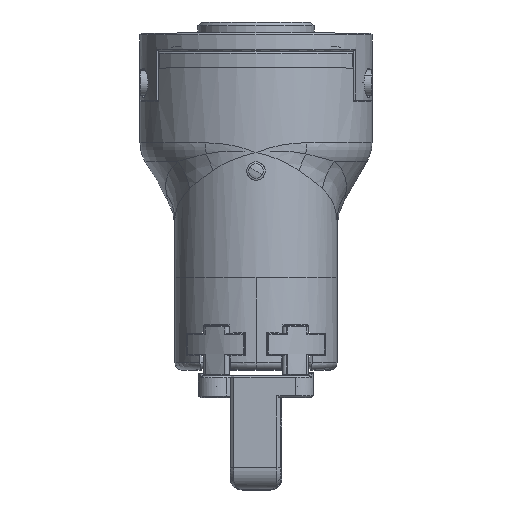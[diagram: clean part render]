
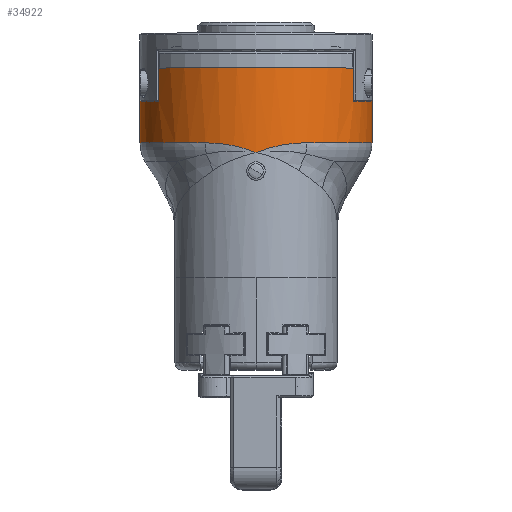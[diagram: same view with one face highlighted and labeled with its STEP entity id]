
A CAD part, top view. The second image highlights one B-rep face of the part: STEP entity #34922.
In plain terms, the highlighted cylindrical face has radius 31.5 mm (diameter 63 mm), a partial arc.
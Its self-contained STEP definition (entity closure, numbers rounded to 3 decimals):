
#134 = VERTEX_POINT ( 'NONE', #38487 ) ;
#297 = AXIS2_PLACEMENT_3D ( 'NONE', #1575, #15602, #53567 ) ;
#946 = CARTESIAN_POINT ( 'NONE',  ( -1.415, -22.449, 31.469 ) ) ;
#1264 = CARTESIAN_POINT ( 'NONE',  ( -12.615, -20.321, 28.889 ) ) ;
#1276 = CARTESIAN_POINT ( 'NONE',  ( -26.5, -9., 17.029 ) ) ;
#1296 = ORIENTED_EDGE ( 'NONE', *, *, #3088, .F. ) ;
#1574 = CARTESIAN_POINT ( 'NONE',  ( -8.074, -20.734, 30.471 ) ) ;
#1575 = CARTESIAN_POINT ( 'NONE',  ( 0., -9., 0. ) ) ;
#1619 = AXIS2_PLACEMENT_3D ( 'NONE', #31708, #51302, #32015 ) ;
#1884 = DIRECTION ( 'NONE',  ( -1., 0., 0. ) ) ;
#2536 = ORIENTED_EDGE ( 'NONE', *, *, #35939, .F. ) ;
#2658 = DIRECTION ( 'NONE',  ( 0., 1., 0. ) ) ;
#2727 = CARTESIAN_POINT ( 'NONE',  ( 31.5, -23., 0. ) ) ;
#3088 = EDGE_CURVE ( 'NONE', #22398, #30119, #24537, .T. ) ;
#4009 = CARTESIAN_POINT ( 'NONE',  ( 31.5, -9., 0. ) ) ;
#4092 = CARTESIAN_POINT ( 'NONE',  ( 12.615, -20.321, 28.889 ) ) ;
#5233 = EDGE_LOOP ( 'NONE', ( #48403, #16531, #15567, #21648, #27091, #15574, #1296, #2536, #22423, #59048, #47580 ) ) ;
#5945 = CARTESIAN_POINT ( 'NONE',  ( 26.5, -9., 17.029 ) ) ;
#6015 = CIRCLE ( 'NONE', #40434, 31.5 ) ;
#6262 = CARTESIAN_POINT ( 'NONE',  ( -11.498, -20.37, 29.351 ) ) ;
#6823 = EDGE_CURVE ( 'NONE', #16573, #56205, #28213, .T. ) ;
#7718 = CARTESIAN_POINT ( 'NONE',  ( 13.713, -20.321, 28.358 ) ) ;
#8481 = DIRECTION ( 'NONE',  ( 0., 1., 0. ) ) ;
#11158 = DIRECTION ( 'NONE',  ( 0., -1., 0. ) ) ;
#11246 = CARTESIAN_POINT ( 'NONE',  ( -0.279, -22.885, 31.5 ) ) ;
#11334 = CARTESIAN_POINT ( 'NONE',  ( -31.5, -23., 0. ) ) ;
#12848 = CARTESIAN_POINT ( 'NONE',  ( 13.713, -20.321, 28.358 ) ) ;
#13152 = CARTESIAN_POINT ( 'NONE',  ( 9.226, -20.577, 30.143 ) ) ;
#14053 = VERTEX_POINT ( 'NONE', #24543 ) ;
#14381 = CARTESIAN_POINT ( 'NONE',  ( -13.713, -20.321, 28.358 ) ) ;
#15567 = ORIENTED_EDGE ( 'NONE', *, *, #28757, .F. ) ;
#15574 = ORIENTED_EDGE ( 'NONE', *, *, #59623, .F. ) ;
#15602 = DIRECTION ( 'NONE',  ( 0., 1., 0. ) ) ;
#15870 = VERTEX_POINT ( 'NONE', #23413 ) ;
#15907 = CARTESIAN_POINT ( 'NONE',  ( -1.131, -22.554, 31.481 ) ) ;
#16318 = LINE ( 'NONE', #11334, #44101 ) ;
#16531 = ORIENTED_EDGE ( 'NONE', *, *, #45424, .T. ) ;
#16573 = VERTEX_POINT ( 'NONE', #30882 ) ;
#17155 = CARTESIAN_POINT ( 'NONE',  ( 0., -23., 0. ) ) ;
#18121 = CARTESIAN_POINT ( 'NONE',  ( 8.07, -20.735, 30.472 ) ) ;
#20588 = CARTESIAN_POINT ( 'NONE',  ( -2.27, -22.147, 31.423 ) ) ;
#21648 = ORIENTED_EDGE ( 'NONE', *, *, #58021, .T. ) ;
#22398 = VERTEX_POINT ( 'NONE', #54862 ) ;
#22423 = ORIENTED_EDGE ( 'NONE', *, *, #34878, .T. ) ;
#22734 = CYLINDRICAL_SURFACE ( 'NONE', #52976, 31.5 ) ;
#23413 = CARTESIAN_POINT ( 'NONE',  ( 31.5, -20.321, 0. ) ) ;
#24537 = CIRCLE ( 'NONE', #1619, 31.5 ) ;
#24543 = CARTESIAN_POINT ( 'NONE',  ( 26.5, -9., 17.029 ) ) ;
#25278 = CARTESIAN_POINT ( 'NONE',  ( 0., -23., 31.5 ) ) ;
#25594 = CARTESIAN_POINT ( 'NONE',  ( 0., -20.321, 0. ) ) ;
#26091 = CIRCLE ( 'NONE', #46931, 31.5 ) ;
#26311 = VERTEX_POINT ( 'NONE', #44305 ) ;
#27091 = ORIENTED_EDGE ( 'NONE', *, *, #51188, .T. ) ;
#27180 = CIRCLE ( 'NONE', #56980, 31.5 ) ;
#28213 = B_SPLINE_CURVE_WITH_KNOTS ( 'NONE', 3,
 ( #14381, #1264, #6262, #38961, #1574, #30254, #34310, #48594, #20588, #946, #15907, #57937, #11246, #25278 ),
 .UNSPECIFIED., .F., .F.,
 ( 4, 2, 2, 2, 2, 2, 4 ),
 ( 0., 0.004, 0.007, 0.011, 0.013, 0.014, 0.014 ),
 .UNSPECIFIED. ) ;
#28757 = EDGE_CURVE ( 'NONE', #14053, #34910, #49018, .T. ) ;
#28916 = DIRECTION ( 'NONE',  ( 1., 0., 0. ) ) ;
#29943 = VECTOR ( 'NONE', #33997, 1000. ) ;
#30119 = VERTEX_POINT ( 'NONE', #1276 ) ;
#30254 = CARTESIAN_POINT ( 'NONE',  ( -5.734, -21.174, 30.997 ) ) ;
#30882 = CARTESIAN_POINT ( 'NONE',  ( -13.713, -20.321, 28.358 ) ) ;
#31450 = CARTESIAN_POINT ( 'NONE',  ( 26.5, 0., 17.029 ) ) ;
#31708 = CARTESIAN_POINT ( 'NONE',  ( 0., -9., 0. ) ) ;
#32015 = DIRECTION ( 'NONE',  ( -1., 0., 0. ) ) ;
#32148 = CARTESIAN_POINT ( 'NONE',  ( 11.498, -20.37, 29.351 ) ) ;
#33997 = DIRECTION ( 'NONE',  ( 0., 1., 0. ) ) ;
#34310 = CARTESIAN_POINT ( 'NONE',  ( -4.57, -21.453, 31.188 ) ) ;
#34467 = CARTESIAN_POINT ( 'NONE',  ( -26.5, -9., 17.029 ) ) ;
#34492 = EDGE_CURVE ( 'NONE', #56205, #39509, #42502, .T. ) ;
#34878 = EDGE_CURVE ( 'NONE', #134, #16573, #27180, .T. ) ;
#34910 = VERTEX_POINT ( 'NONE', #4009 ) ;
#34922 = ADVANCED_FACE ( 'NONE', ( #59786 ), #22734, .T. ) ;
#35843 = VECTOR ( 'NONE', #59712, 1000. ) ;
#35939 = EDGE_CURVE ( 'NONE', #134, #22398, #16318, .T. ) ;
#36521 = CARTESIAN_POINT ( 'NONE',  ( 4.568, -21.453, 31.188 ) ) ;
#36812 = CARTESIAN_POINT ( 'NONE',  ( 0.279, -22.885, 31.5 ) ) ;
#37117 = CARTESIAN_POINT ( 'NONE',  ( 0.564, -22.771, 31.496 ) ) ;
#37718 = CARTESIAN_POINT ( 'NONE',  ( 2.269, -22.148, 31.423 ) ) ;
#38487 = CARTESIAN_POINT ( 'NONE',  ( -31.5, -20.321, 0. ) ) ;
#38961 = CARTESIAN_POINT ( 'NONE',  ( -9.228, -20.577, 30.142 ) ) ;
#39440 = LINE ( 'NONE', #34467, #53783 ) ;
#39493 = CARTESIAN_POINT ( 'NONE',  ( 0., 0., 0. ) ) ;
#39509 = VERTEX_POINT ( 'NONE', #7718 ) ;
#40434 = AXIS2_PLACEMENT_3D ( 'NONE', #54584, #8481, #60783 ) ;
#41697 = DIRECTION ( 'NONE',  ( -1., 0., 0. ) ) ;
#41771 = CARTESIAN_POINT ( 'NONE',  ( 0., -23., 31.5 ) ) ;
#42502 = B_SPLINE_CURVE_WITH_KNOTS ( 'NONE', 3,
 ( #41771, #36812, #37117, #61394, #50515, #37718, #46743, #36521, #60775, #18121, #13152, #32148, #4092, #12848 ),
 .UNSPECIFIED., .F., .F.,
 ( 4, 2, 2, 2, 2, 2, 4 ),
 ( 0., 0.001, 0.002, 0.004, 0.007, 0.011, 0.014 ),
 .UNSPECIFIED. ) ;
#44101 = VECTOR ( 'NONE', #49605, 1000. ) ;
#44305 = CARTESIAN_POINT ( 'NONE',  ( -26.5, 0., 17.029 ) ) ;
#44564 = DIRECTION ( 'NONE',  ( 0., 1., 0. ) ) ;
#45409 = LINE ( 'NONE', #2727, #35843 ) ;
#45424 = EDGE_CURVE ( 'NONE', #15870, #34910, #45409, .T. ) ;
#46526 = EDGE_CURVE ( 'NONE', #39509, #15870, #6015, .T. ) ;
#46743 = CARTESIAN_POINT ( 'NONE',  ( 2.842, -21.962, 31.377 ) ) ;
#46931 = AXIS2_PLACEMENT_3D ( 'NONE', #39493, #11158, #28916 ) ;
#47580 = ORIENTED_EDGE ( 'NONE', *, *, #34492, .T. ) ;
#48403 = ORIENTED_EDGE ( 'NONE', *, *, #46526, .T. ) ;
#48594 = CARTESIAN_POINT ( 'NONE',  ( -2.843, -21.962, 31.377 ) ) ;
#49018 = CIRCLE ( 'NONE', #297, 31.5 ) ;
#49605 = DIRECTION ( 'NONE',  ( 0., 1., 0. ) ) ;
#50515 = CARTESIAN_POINT ( 'NONE',  ( 1.415, -22.449, 31.47 ) ) ;
#51188 = EDGE_CURVE ( 'NONE', #53876, #26311, #26091, .T. ) ;
#51302 = DIRECTION ( 'NONE',  ( 0., 1., 0. ) ) ;
#52976 = AXIS2_PLACEMENT_3D ( 'NONE', #17155, #55128, #41697 ) ;
#53567 = DIRECTION ( 'NONE',  ( -1., 0., 0. ) ) ;
#53783 = VECTOR ( 'NONE', #2658, 1000. ) ;
#53876 = VERTEX_POINT ( 'NONE', #31450 ) ;
#54584 = CARTESIAN_POINT ( 'NONE',  ( 0., -20.321, 0. ) ) ;
#54862 = CARTESIAN_POINT ( 'NONE',  ( -31.5, -9., 0. ) ) ;
#55128 = DIRECTION ( 'NONE',  ( 0., 1., 0. ) ) ;
#56205 = VERTEX_POINT ( 'NONE', #58593 ) ;
#56980 = AXIS2_PLACEMENT_3D ( 'NONE', #25594, #44564, #1884 ) ;
#57341 = LINE ( 'NONE', #5945, #29943 ) ;
#57937 = CARTESIAN_POINT ( 'NONE',  ( -0.564, -22.771, 31.496 ) ) ;
#58021 = EDGE_CURVE ( 'NONE', #14053, #53876, #57341, .T. ) ;
#58593 = CARTESIAN_POINT ( 'NONE',  ( 0., -23., 31.5 ) ) ;
#59048 = ORIENTED_EDGE ( 'NONE', *, *, #6823, .T. ) ;
#59623 = EDGE_CURVE ( 'NONE', #30119, #26311, #39440, .T. ) ;
#59712 = DIRECTION ( 'NONE',  ( 0., 1., 0. ) ) ;
#59786 = FACE_OUTER_BOUND ( 'NONE', #5233, .T. ) ;
#60775 = CARTESIAN_POINT ( 'NONE',  ( 5.73, -21.175, 30.998 ) ) ;
#60783 = DIRECTION ( 'NONE',  ( -1., 0., 0. ) ) ;
#61394 = CARTESIAN_POINT ( 'NONE',  ( 1.131, -22.554, 31.481 ) ) ;
